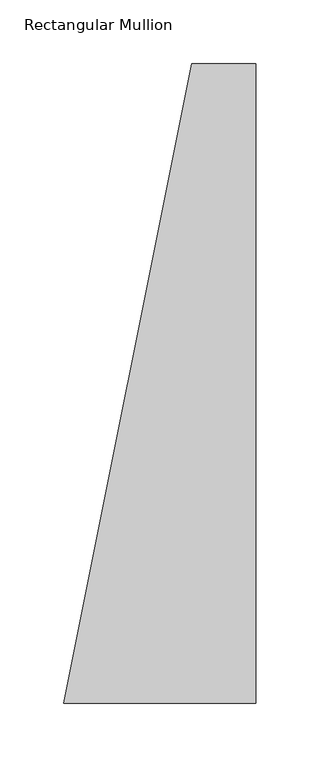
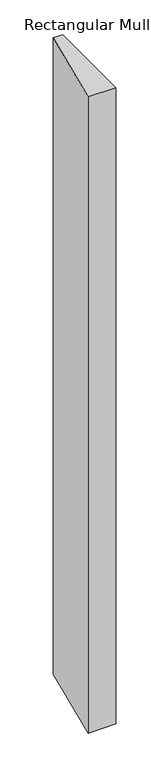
"""IFC4 building model written with IfcOpenShell, lengths in millimetres: member geometry, Rectangular Mullion : 500(350+150)x150x50mm."""

from ifc_helpers import new_model, si_unit, frame, origin, place, context, project, spatial, polyline, outline, extrude, source, transform, mapped, element, save


def rectangular_mullion_2aacef73(model_context):
    return source(origin(), model_context, "Body", "SweptSolid", [
        extrude(outline(polyline([(0.0, 150.0), (0.0, -350.0), (-150.0, -350.0), (-50.0, 150.0), (0.0, 150.0)])), frame((0.0, 0.0, -3650.0), z_axis=(0.0, 0.0, 1.0), x_axis=(1.0, 0.0, 0.0)), (0.0, 0.0, 1.0), 3650.0),
    ])


if __name__ == "__main__":
    model = new_model("IFC4")
    model_context = context("Model", 3, world=origin())
    ifc_project = project(units=[si_unit("LENGTHUNIT", "METRE", prefix="MILLI")], contexts=[model_context])
    site = spatial("IfcSite", under=ifc_project)
    building = spatial("IfcBuilding", under=site)
    placement = place(None, origin())
    rectangular_mullion_shape = rectangular_mullion_2aacef73(model_context)
    element("IfcMember", 1, ObjectType="Rectangular Mullion : 500(350+150)x150x50mm", at=placement, inside=building, context=model_context, shape_type="MappedRepresentation", body=[
        mapped(rectangular_mullion_shape, transform((0.0, 0.0, 0.0), x_axis=(1.0, 0.0, 0.0), y_axis=(0.0, 1.0, 0.0), z_axis=(0.0, 0.0, 1.0))),
    ])
    save(model, "model.ifc")
